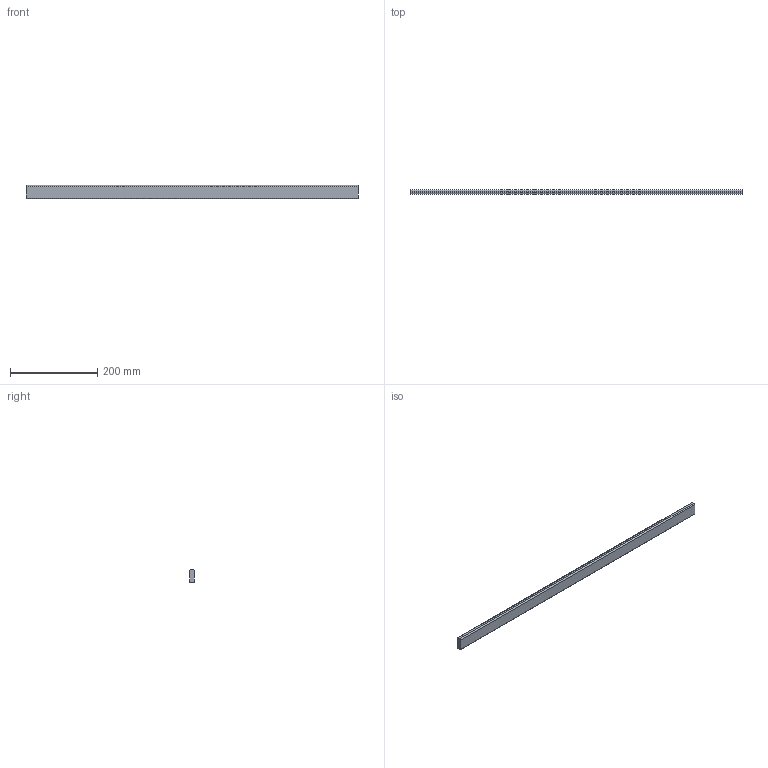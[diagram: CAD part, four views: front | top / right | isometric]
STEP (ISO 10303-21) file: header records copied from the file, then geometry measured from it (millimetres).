
FILE_DESCRIPTION (( 'STEP AP214' ), '1' );
FILE_NAME ('_Querreling_KAB-850_KS-16.step', '2010-08-26T14:59:03', ( 'grass' ), ( '' ), 'SwSTEP 2.0', 'SolidWorks 2009', '' );
FILE_SCHEMA (( 'AUTOMOTIVE_DESIGN' ));
Length unit declared in the file: millimetre
Products named in the file (1): _Querreling_KAB-850_KS-16
Bounding box: 762.5 x 10.5 x 30 mm (x, y, z)
Volume: 236914.8 mm3; surface area: 59765.8 mm2
Topology: 1 solids, 1 shells, 10 faces, 24 edges, 16 vertices
Faces by surface type: plane 6, cylinder 4
Entity records: 330 total; most frequent: DIRECTION 54, CARTESIAN_POINT 51, ORIENTED_EDGE 48, EDGE_CURVE 24, AXIS2_PLACEMENT_3D 19, LINE 16, VECTOR 16, VERTEX_POINT 16
